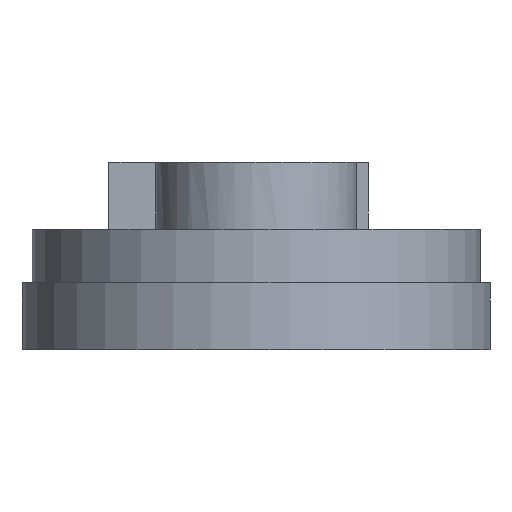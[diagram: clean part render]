
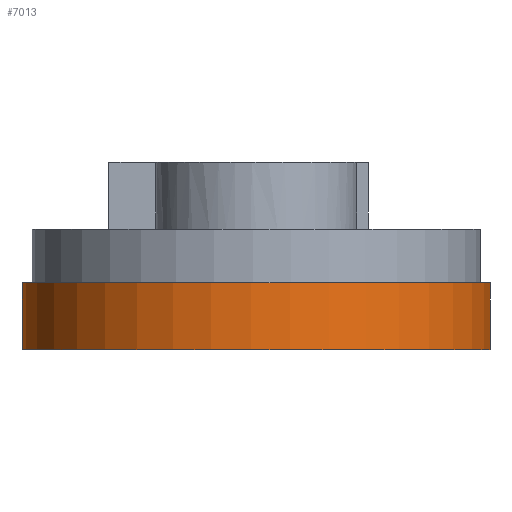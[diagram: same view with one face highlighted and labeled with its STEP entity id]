
A CAD part, left-side view. The second image highlights one B-rep face of the part: STEP entity #7013.
In plain terms, the highlighted cylindrical face has radius 35 mm (diameter 70 mm), a partial arc.
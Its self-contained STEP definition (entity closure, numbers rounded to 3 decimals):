
#347=LINE('',#10566,#1169);
#488=LINE('',#10861,#1310);
#1169=VECTOR('',#8422,10.);
#1310=VECTOR('',#8701,10.);
#2167=FACE_OUTER_BOUND('',#2568,.T.);
#2568=EDGE_LOOP('',(#5566,#5567,#5568,#5569));
#2831=CIRCLE('',#7259,35.);
#2930=CIRCLE('',#7407,35.);
#3077=VERTEX_POINT('',#9871);
#3078=VERTEX_POINT('',#9873);
#3355=VERTEX_POINT('',#10524);
#3369=VERTEX_POINT('',#10552);
#3763=EDGE_CURVE('',#3077,#3078,#2831,.T.);
#4103=EDGE_CURVE('',#3355,#3369,#2930,.T.);
#4109=EDGE_CURVE('',#3077,#3355,#347,.T.);
#4256=EDGE_CURVE('',#3078,#3369,#488,.T.);
#5566=ORIENTED_EDGE('',*,*,#4256,.F.);
#5567=ORIENTED_EDGE('',*,*,#3763,.F.);
#5568=ORIENTED_EDGE('',*,*,#4109,.T.);
#5569=ORIENTED_EDGE('',*,*,#4103,.T.);
#6801=CYLINDRICAL_SURFACE('',#7480,35.);
#7013=ADVANCED_FACE('',(#2167),#6801,.T.);
#7259=AXIS2_PLACEMENT_3D('',#9874,#7872,#7873);
#7407=AXIS2_PLACEMENT_3D('',#10554,#8409,#8410);
#7480=AXIS2_PLACEMENT_3D('',#10863,#8703,#8704);
#7872=DIRECTION('center_axis',(0.,0.,-1.));
#7873=DIRECTION('ref_axis',(-0.778,-0.629,0.));
#8409=DIRECTION('center_axis',(0.,0.,-1.));
#8410=DIRECTION('ref_axis',(-0.026,-1.,0.));
#8422=DIRECTION('',(0.,0.,1.));
#8701=DIRECTION('',(0.,0.,1.));
#8703=DIRECTION('center_axis',(0.,0.,1.));
#8704=DIRECTION('ref_axis',(-0.778,-0.629,0.));
#9871=CARTESIAN_POINT('',(9.547,-33.673,0.));
#9873=CARTESIAN_POINT('',(25.92,23.519,0.));
#9874=CARTESIAN_POINT('Origin',(0.,0.,0.));
#10524=CARTESIAN_POINT('',(9.547,-33.673,10.));
#10552=CARTESIAN_POINT('',(25.92,23.519,10.));
#10554=CARTESIAN_POINT('Origin',(0.,0.,10.));
#10566=CARTESIAN_POINT('',(9.547,-33.673,0.));
#10861=CARTESIAN_POINT('',(25.92,23.519,18.));
#10863=CARTESIAN_POINT('Origin',(0.,0.,18.));
